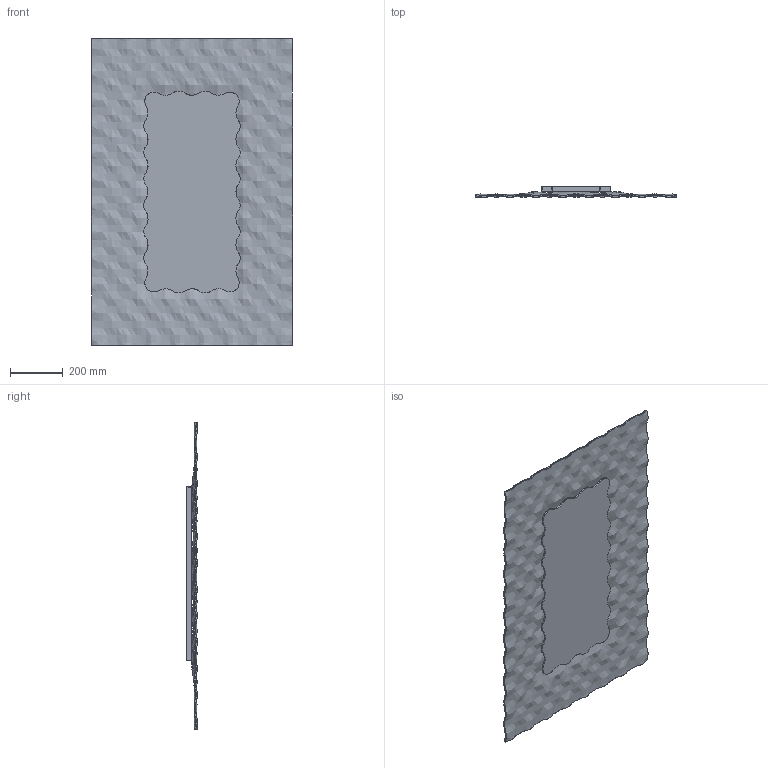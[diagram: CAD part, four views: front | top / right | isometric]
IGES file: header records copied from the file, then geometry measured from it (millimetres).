
Global section: file name: Z:\3D_LQ\POP_rev2021\xWeb\76x116\POP_76x116.igs; native system: Rhinoceros ( Aug 11 2021 ); preprocessor: Trout Lake IGES 012 Aug 11 2021; date: 250221.171752; units: millimetre
Bounding box: 762.05 x 42.1 x 1161.96 mm (x, y, z)
Surface area: 2721396.4 mm2 (no closed solid volume)
Topology: 0 solids, 0 shells, 100 faces, 2230 edges, 2226 vertices
Faces by surface type: bspline 100
